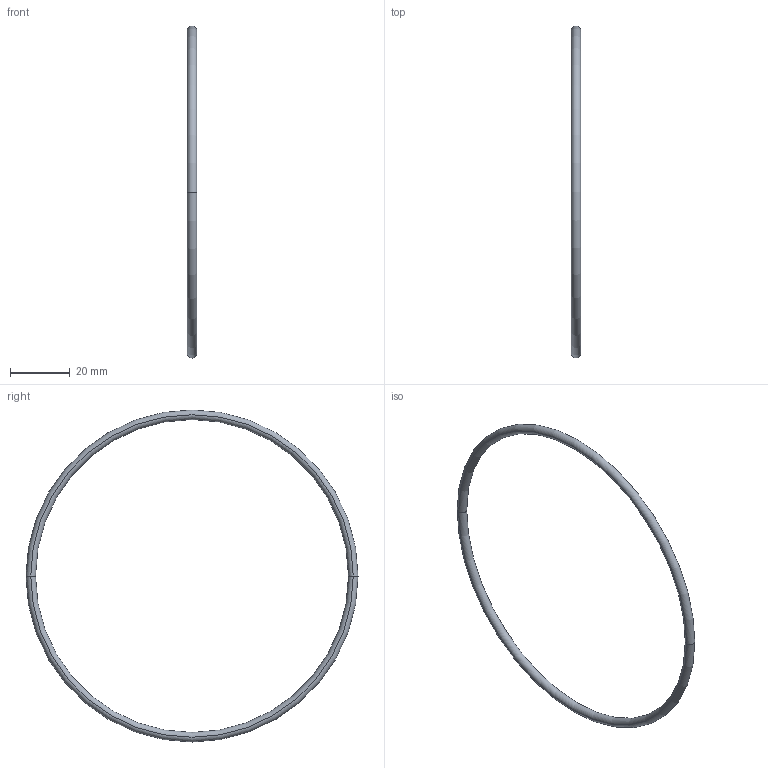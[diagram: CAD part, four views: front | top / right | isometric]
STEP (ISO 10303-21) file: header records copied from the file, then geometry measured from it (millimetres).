
FILE_DESCRIPTION(/* description */ ('VariCAD 2010-1.04 AP-203'),/* implementation_level */ '2;1');
FILE_NAME(/* name */ '0353-30-12',/* time_stamp */ '2010-01-13T00:56:09-07:00',/* author */ (''),/* organization */ (''),/* preprocessor_version */ 'ST-DEVELOPER v12',/* originating_system */ 'VariCAD 2010-1.04; kernel version (20090520)',/* authorisation */ '');
FILE_SCHEMA (('CONFIG_CONTROL_DESIGN'));
Length unit declared in the file: millimetre
Products named in the file (1): Part
Bounding box: 3.18 x 111.03 x 111.03 mm (x, y, z)
Volume: 2691 mm3; surface area: 3384.9 mm2
Topology: 1 solids, 1 shells, 4 faces, 8 edges, 4 vertices
Faces by surface type: torus 4
Entity records: 158 total; most frequent: DIRECTION 28, CARTESIAN_POINT 18, ORIENTED_EDGE 16, AXIS2_PLACEMENT_3D 14, EDGE_CURVE 8, CIRCLE 8, CC_DESIGN_PERSON_AND_ORGANIZATION_ASSIGNMENT 4, PERSON_AND_ORGANIZATION_ROLE 4
